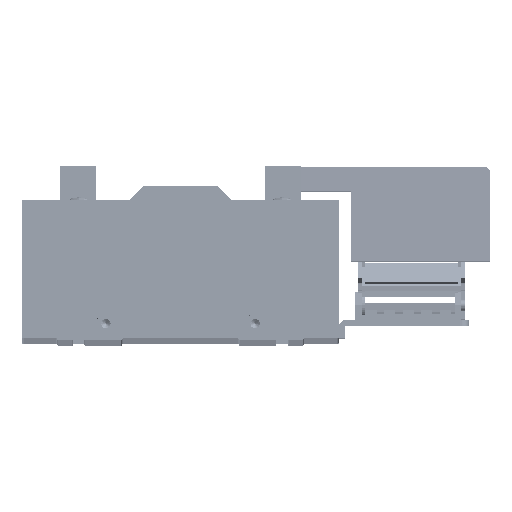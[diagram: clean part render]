
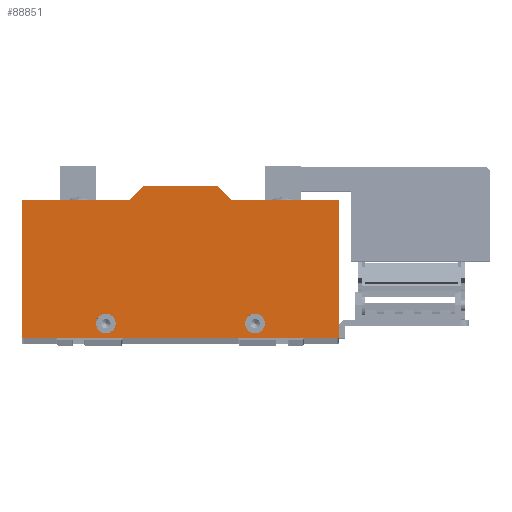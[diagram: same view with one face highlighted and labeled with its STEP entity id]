
A CAD part, top view. The second image highlights one B-rep face of the part: STEP entity #88851.
In plain terms, the highlighted planar face has unit normal (0, 0, 1).
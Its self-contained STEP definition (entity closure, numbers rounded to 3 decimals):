
#36567 = CARTESIAN_POINT ( 'NONE',  ( -85., 37., 9.525 ) ) ;
#36568 = DIRECTION ( 'NONE',  ( 0., -1., 0. ) ) ;
#36570 = VECTOR ( 'NONE', #36568, 1000. ) ;
#36571 = CARTESIAN_POINT ( 'NONE',  ( -85., 37., 9.525 ) ) ;
#36573 = LINE ( 'NONE', #36571, #36570 ) ;
#36905 = DIRECTION ( 'NONE',  ( 1., 0., 0. ) ) ;
#36908 = DIRECTION ( 'NONE',  ( 0., 0., 1. ) ) ;
#36909 = CARTESIAN_POINT ( 'NONE',  ( -40., -29., 9.525 ) ) ;
#36910 = AXIS2_PLACEMENT_3D ( 'NONE', #36909, #36908, #36905 ) ;
#36911 = CIRCLE ( 'NONE', #36910, 5.25 ) ;
#36978 = CARTESIAN_POINT ( 'NONE',  ( 45.25, -29., 9.525 ) ) ;
#36979 = DIRECTION ( 'NONE',  ( 1., 0., 0. ) ) ;
#36980 = DIRECTION ( 'NONE',  ( 0., 0., 1. ) ) ;
#36981 = CARTESIAN_POINT ( 'NONE',  ( 40., -29., 9.525 ) ) ;
#36982 = AXIS2_PLACEMENT_3D ( 'NONE', #36981, #36980, #36979 ) ;
#36984 = CIRCLE ( 'NONE', #36982, 5.25 ) ;
#37201 = CARTESIAN_POINT ( 'NONE',  ( 85., -37., 9.525 ) ) ;
#37293 = CARTESIAN_POINT ( 'NONE',  ( -45.25, -29., 9.525 ) ) ;
#37322 = DIRECTION ( 'NONE',  ( 1., 0., 0. ) ) ;
#37324 = VECTOR ( 'NONE', #37322, 1000. ) ;
#37327 = CARTESIAN_POINT ( 'NONE',  ( -85., -37., 9.525 ) ) ;
#37328 = LINE ( 'NONE', #37327, #37324 ) ;
#37343 = CARTESIAN_POINT ( 'NONE',  ( 85., 37., 9.525 ) ) ;
#37460 = CARTESIAN_POINT ( 'NONE',  ( -34.75, -29., 9.525 ) ) ;
#37496 = DIRECTION ( 'NONE',  ( 0., 1., 0. ) ) ;
#37497 = VECTOR ( 'NONE', #37496, 1000. ) ;
#37498 = CARTESIAN_POINT ( 'NONE',  ( 85., 37., 9.525 ) ) ;
#37500 = LINE ( 'NONE', #37498, #37497 ) ;
#66068 = CARTESIAN_POINT ( 'NONE',  ( -85., -37., 9.525 ) ) ;
#66083 = DIRECTION ( 'NONE',  ( -0.707, 0.707, 0. ) ) ;
#66084 = VECTOR ( 'NONE', #66083, 1000. ) ;
#66085 = CARTESIAN_POINT ( 'NONE',  ( 19.5, 45., 9.525 ) ) ;
#66086 = LINE ( 'NONE', #66085, #66084 ) ;
#66220 = CARTESIAN_POINT ( 'NONE',  ( 34.75, -29., 9.525 ) ) ;
#66243 = CARTESIAN_POINT ( 'NONE',  ( 19.5, 45., 9.525 ) ) ;
#66255 = DIRECTION ( 'NONE',  ( 1., 0., 0. ) ) ;
#66256 = DIRECTION ( 'NONE',  ( 0., 0., 1. ) ) ;
#66257 = CARTESIAN_POINT ( 'NONE',  ( 40., -29., 9.525 ) ) ;
#66258 = AXIS2_PLACEMENT_3D ( 'NONE', #66257, #66256, #66255 ) ;
#66259 = CIRCLE ( 'NONE', #66258, 5.25 ) ;
#66288 = DIRECTION ( 'NONE',  ( -1., 0., 0. ) ) ;
#66289 = VECTOR ( 'NONE', #66288, 1000. ) ;
#66290 = CARTESIAN_POINT ( 'NONE',  ( -85., 37., 9.525 ) ) ;
#66291 = LINE ( 'NONE', #66290, #66289 ) ;
#66334 = DIRECTION ( 'NONE',  ( 1., 0., 0. ) ) ;
#66335 = DIRECTION ( 'NONE',  ( 0., 0., 1. ) ) ;
#66336 = CARTESIAN_POINT ( 'NONE',  ( -40., -29., 9.525 ) ) ;
#66337 = AXIS2_PLACEMENT_3D ( 'NONE', #66336, #66335, #66334 ) ;
#66338 = CIRCLE ( 'NONE', #66337, 5.25 ) ;
#66343 = DIRECTION ( 'NONE',  ( 1., 0., 0. ) ) ;
#66344 = DIRECTION ( 'NONE',  ( 0., 0., 1. ) ) ;
#66345 = CARTESIAN_POINT ( 'NONE',  ( -85., 37., 9.525 ) ) ;
#66346 = AXIS2_PLACEMENT_3D ( 'NONE', #66345, #66344, #66343 ) ;
#66348 = PLANE ( 'NONE',  #66346 ) ;
#66349 = FACE_OUTER_BOUND ( 'NONE', #88783, .T. ) ;
#66350 = FACE_BOUND ( 'NONE', #88763, .T. ) ;
#66351 = FACE_BOUND ( 'NONE', #88855, .T. ) ;
#66631 = CARTESIAN_POINT ( 'NONE',  ( 27.5, 37., 9.525 ) ) ;
#66816 = DIRECTION ( 'NONE',  ( -1., 0., 0. ) ) ;
#66817 = VECTOR ( 'NONE', #66816, 1000. ) ;
#66818 = CARTESIAN_POINT ( 'NONE',  ( 27.5, 37., 9.525 ) ) ;
#66819 = LINE ( 'NONE', #66818, #66817 ) ;
#66916 = CARTESIAN_POINT ( 'NONE',  ( -19.5, 45., 9.525 ) ) ;
#66969 = CARTESIAN_POINT ( 'NONE',  ( -27.5, 37., 9.525 ) ) ;
#66979 = DIRECTION ( 'NONE',  ( -1., 0., 0. ) ) ;
#66980 = VECTOR ( 'NONE', #66979, 1000. ) ;
#66981 = CARTESIAN_POINT ( 'NONE',  ( -19.5, 45., 9.525 ) ) ;
#66982 = LINE ( 'NONE', #66981, #66980 ) ;
#67193 = DIRECTION ( 'NONE',  ( -0.707, -0.707, 0. ) ) ;
#67194 = VECTOR ( 'NONE', #67193, 1000. ) ;
#67195 = CARTESIAN_POINT ( 'NONE',  ( -27.5, 37., 9.525 ) ) ;
#67196 = LINE ( 'NONE', #67195, #67194 ) ;
#82067 = EDGE_CURVE ( 'NONE', #82072, #88267, #36573, .T. ) ;
#82072 = VERTEX_POINT ( 'NONE', #36567 ) ;
#82222 = EDGE_CURVE ( 'NONE', #82401, #82463, #36911, .T. ) ;
#82245 = EDGE_CURVE ( 'NONE', #88687, #82249, #36984, .T. ) ;
#82249 = VERTEX_POINT ( 'NONE', #36978 ) ;
#82373 = VERTEX_POINT ( 'NONE', #37201 ) ;
#82384 = EDGE_CURVE ( 'NONE', #88267, #82373, #37328, .T. ) ;
#82401 = VERTEX_POINT ( 'NONE', #37293 ) ;
#82438 = VERTEX_POINT ( 'NONE', #37343 ) ;
#82463 = VERTEX_POINT ( 'NONE', #37460 ) ;
#82506 = EDGE_CURVE ( 'NONE', #82373, #82438, #37500, .T. ) ;
#88267 = VERTEX_POINT ( 'NONE', #66068 ) ;
#88379 = EDGE_CURVE ( 'NONE', #89503, #88651, #66086, .T. ) ;
#88651 = VERTEX_POINT ( 'NONE', #66243 ) ;
#88687 = VERTEX_POINT ( 'NONE', #66220 ) ;
#88759 = ORIENTED_EDGE ( 'NONE', *, *, #82222, .F. ) ;
#88763 = EDGE_LOOP ( 'NONE', ( #88771, #88782 ) ) ;
#88771 = ORIENTED_EDGE ( 'NONE', *, *, #88776, .F. ) ;
#88776 = EDGE_CURVE ( 'NONE', #82249, #88687, #66259, .T. ) ;
#88782 = ORIENTED_EDGE ( 'NONE', *, *, #82245, .F. ) ;
#88783 = EDGE_LOOP ( 'NONE', ( #88786, #89005, #89009, #89017, #88969, #88973, #88975, #89020 ) ) ;
#88786 = ORIENTED_EDGE ( 'NONE', *, *, #82067, .T. ) ;
#88840 = EDGE_CURVE ( 'NONE', #89791, #82072, #66291, .T. ) ;
#88851 = ADVANCED_FACE ( 'NONE', ( #66351, #66350, #66349 ), #66348, .T. ) ;
#88855 = EDGE_LOOP ( 'NONE', ( #88860, #88759 ) ) ;
#88860 = ORIENTED_EDGE ( 'NONE', *, *, #88861, .F. ) ;
#88861 = EDGE_CURVE ( 'NONE', #82463, #82401, #66338, .T. ) ;
#88969 = ORIENTED_EDGE ( 'NONE', *, *, #88379, .T. ) ;
#88973 = ORIENTED_EDGE ( 'NONE', *, *, #89774, .T. ) ;
#88975 = ORIENTED_EDGE ( 'NONE', *, *, #90015, .T. ) ;
#89005 = ORIENTED_EDGE ( 'NONE', *, *, #82384, .T. ) ;
#89009 = ORIENTED_EDGE ( 'NONE', *, *, #82506, .T. ) ;
#89017 = ORIENTED_EDGE ( 'NONE', *, *, #89705, .T. ) ;
#89020 = ORIENTED_EDGE ( 'NONE', *, *, #88840, .T. ) ;
#89503 = VERTEX_POINT ( 'NONE', #66631 ) ;
#89705 = EDGE_CURVE ( 'NONE', #82438, #89503, #66819, .T. ) ;
#89762 = VERTEX_POINT ( 'NONE', #66916 ) ;
#89774 = EDGE_CURVE ( 'NONE', #88651, #89762, #66982, .T. ) ;
#89791 = VERTEX_POINT ( 'NONE', #66969 ) ;
#90015 = EDGE_CURVE ( 'NONE', #89762, #89791, #67196, .T. ) ;
